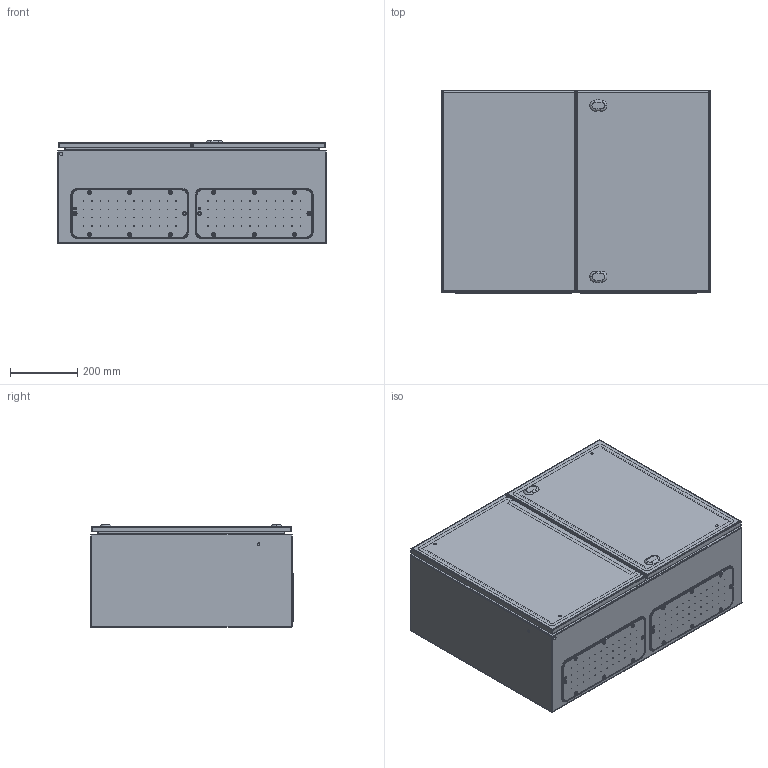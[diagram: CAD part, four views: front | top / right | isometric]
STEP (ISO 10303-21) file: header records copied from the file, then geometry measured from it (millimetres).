
FILE_DESCRIPTION (( 'STEP AP203' ), '1' );
FILE_NAME ('0800x0600x0300.step', '2021-09-07T07:58:17', ( '' ), ( '' ), 'SwSTEP 2.0', 'SolidWorks 2021', '' );
FILE_SCHEMA (( 'CONFIG_CONTROL_DESIGN' ));
Length unit declared in the file: millimetre
Products named in the file (8): AR_ECOR_involucro_0800x0600x0300; AR_ECOR_porta_CB_0800x0600; AR_ECOR_flangia IC_04; AR_ECOR_montaggio_porta_IB_0800x0600; AR_ECOR_Piastra_20; AR_ECOR_chiusura_std_STD; AR_ECOR_porta_IB_0800x0600; 0800x0600x0300
Assembly tree (9 placements, depth 3):
  0800x0600x0300
    AR_ECOR_involucro_0800x0600x0300
    AR_ECOR_montaggio_porta_IB_0800x0600
      AR_ECOR_porta_IB_0800x0600
      AR_ECOR_chiusura_std_STD  x2
    AR_ECOR_flangia IC_04  x2
    AR_ECOR_Piastra_20
    AR_ECOR_porta_CB_0800x0600
Bounding box: 800 x 604 x 305 mm (x, y, z)
Volume: 4085240.3 mm3; surface area: 4900720.3 mm2
Topology: 8 solids, 8 shells, 1336 faces, 3300 edges, 2090 vertices
Faces by surface type: cylinder 641, plane 425, cone 112, torus 86, bspline 52, sphere 20
Entity records: 32511 total; most frequent: CARTESIAN_POINT 6371, DIRECTION 5582, ORIENTED_EDGE 5042, EDGE_CURVE 2521, AXIS2_PLACEMENT_3D 2170, VERTEX_POINT 1608, EDGE_LOOP 1331, VECTOR 1242
